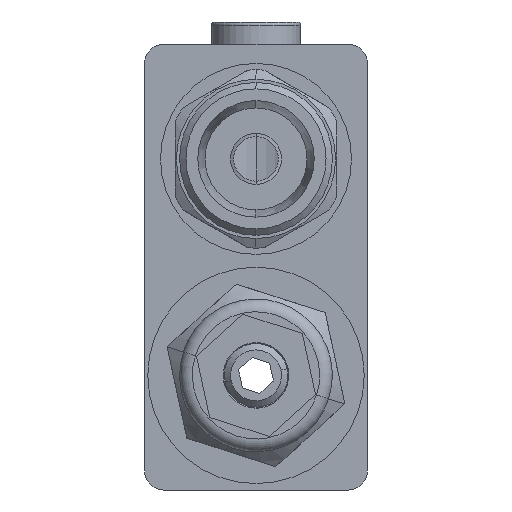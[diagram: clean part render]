
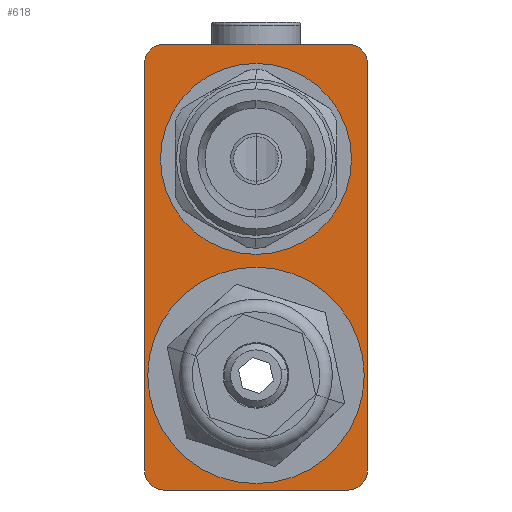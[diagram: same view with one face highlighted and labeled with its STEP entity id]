
A CAD part, left-side view. The second image highlights one B-rep face of the part: STEP entity #618.
In plain terms, the highlighted planar face has unit normal (-1, 0, 0).
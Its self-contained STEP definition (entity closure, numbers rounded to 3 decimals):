
#51 = VECTOR ( 'NONE', #2584, 1000. ) ;
#175 = ORIENTED_EDGE ( 'NONE', *, *, #5574, .T. ) ;
#204 = CIRCLE ( 'NONE', #5068, 3. ) ;
#242 = CARTESIAN_POINT ( 'NONE',  ( -58., 0., -34. ) ) ;
#286 = VECTOR ( 'NONE', #1292, 1000. ) ;
#329 = CARTESIAN_POINT ( 'NONE',  ( -58., -17.5, 35. ) ) ;
#426 = EDGE_CURVE ( 'NONE', #5053, #4060, #1322, .T. ) ;
#561 = LINE ( 'NONE', #4968, #4299 ) ;
#594 = CARTESIAN_POINT ( 'NONE',  ( -58., 17.5, 35. ) ) ;
#595 = EDGE_LOOP ( 'NONE', ( #7310, #4811, #2607, #3880, #2161, #4622, #5706, #1457 ) ) ;
#618 = ADVANCED_FACE ( 'NONE', ( #2884, #4698, #1850 ), #1781, .F. ) ;
#689 = EDGE_LOOP ( 'NONE', ( #3813, #175 ) ) ;
#717 = CARTESIAN_POINT ( 'NONE',  ( -58., 17.5, 32. ) ) ;
#779 = DIRECTION ( 'NONE',  ( -1., 0., 0. ) ) ;
#802 = CARTESIAN_POINT ( 'NONE',  ( -58., 0., 17. ) ) ;
#839 = VERTEX_POINT ( 'NONE', #1248 ) ;
#841 = CARTESIAN_POINT ( 'NONE',  ( -58., 0., -17. ) ) ;
#907 = VECTOR ( 'NONE', #3058, 1000. ) ;
#913 = VERTEX_POINT ( 'NONE', #242 ) ;
#932 = CARTESIAN_POINT ( 'NONE',  ( -58., -17.5, 32. ) ) ;
#1072 = DIRECTION ( 'NONE',  ( 0., 0., -1. ) ) ;
#1114 = DIRECTION ( 'NONE',  ( 0., -1., 0. ) ) ;
#1122 = CIRCLE ( 'NONE', #2063, 17. ) ;
#1147 = DIRECTION ( 'NONE',  ( 0., 0., -1. ) ) ;
#1248 = CARTESIAN_POINT ( 'NONE',  ( -58., 0., 32. ) ) ;
#1251 = DIRECTION ( 'NONE',  ( 1., 0., 0. ) ) ;
#1292 = DIRECTION ( 'NONE',  ( 0., 0., 1. ) ) ;
#1322 = CIRCLE ( 'NONE', #2031, 3. ) ;
#1364 = DIRECTION ( 'NONE',  ( 0., 0., -1. ) ) ;
#1376 = CARTESIAN_POINT ( 'NONE',  ( -58., 14.5, -35. ) ) ;
#1428 = CARTESIAN_POINT ( 'NONE',  ( -58., 17.5, 35. ) ) ;
#1457 = ORIENTED_EDGE ( 'NONE', *, *, #1569, .T. ) ;
#1569 = EDGE_CURVE ( 'NONE', #1655, #2103, #204, .T. ) ;
#1639 = CARTESIAN_POINT ( 'NONE',  ( -58., -17.5, -32. ) ) ;
#1655 = VERTEX_POINT ( 'NONE', #7309 ) ;
#1781 = PLANE ( 'NONE',  #6994 ) ;
#1850 = FACE_BOUND ( 'NONE', #3296, .T. ) ;
#1852 = AXIS2_PLACEMENT_3D ( 'NONE', #2180, #5032, #1072 ) ;
#2031 = AXIS2_PLACEMENT_3D ( 'NONE', #6446, #2554, #1364 ) ;
#2038 = CARTESIAN_POINT ( 'NONE',  ( -58., 14.5, 32. ) ) ;
#2063 = AXIS2_PLACEMENT_3D ( 'NONE', #6362, #6328, #1147 ) ;
#2103 = VERTEX_POINT ( 'NONE', #717 ) ;
#2161 = ORIENTED_EDGE ( 'NONE', *, *, #5380, .T. ) ;
#2180 = CARTESIAN_POINT ( 'NONE',  ( -58., -14.5, 32. ) ) ;
#2322 = AXIS2_PLACEMENT_3D ( 'NONE', #6816, #4454, #5080 ) ;
#2404 = LINE ( 'NONE', #594, #286 ) ;
#2554 = DIRECTION ( 'NONE',  ( -1., 0., 0. ) ) ;
#2584 = DIRECTION ( 'NONE',  ( 0., 0., 1. ) ) ;
#2607 = ORIENTED_EDGE ( 'NONE', *, *, #6511, .T. ) ;
#2659 = EDGE_CURVE ( 'NONE', #3185, #839, #4545, .T. ) ;
#2703 = CARTESIAN_POINT ( 'NONE',  ( -58., 0., 0. ) ) ;
#2856 = DIRECTION ( 'NONE',  ( 0., 0., -1. ) ) ;
#2884 = FACE_BOUND ( 'NONE', #689, .T. ) ;
#2974 = EDGE_CURVE ( 'NONE', #913, #6422, #1122, .T. ) ;
#3009 = EDGE_CURVE ( 'NONE', #6536, #2103, #2404, .T. ) ;
#3056 = DIRECTION ( 'NONE',  ( -1., 0., 0. ) ) ;
#3058 = DIRECTION ( 'NONE',  ( 0., -1., 0. ) ) ;
#3069 = DIRECTION ( 'NONE',  ( 0., 0., 1. ) ) ;
#3185 = VERTEX_POINT ( 'NONE', #6687 ) ;
#3236 = CIRCLE ( 'NONE', #6074, 17. ) ;
#3296 = EDGE_LOOP ( 'NONE', ( #5632, #3530 ) ) ;
#3530 = ORIENTED_EDGE ( 'NONE', *, *, #2659, .F. ) ;
#3813 = ORIENTED_EDGE ( 'NONE', *, *, #2974, .T. ) ;
#3831 = CIRCLE ( 'NONE', #4780, 15. ) ;
#3880 = ORIENTED_EDGE ( 'NONE', *, *, #426, .T. ) ;
#4023 = EDGE_CURVE ( 'NONE', #6536, #5880, #4452, .T. ) ;
#4060 = VERTEX_POINT ( 'NONE', #1639 ) ;
#4098 = DIRECTION ( 'NONE',  ( 0., 0., 1. ) ) ;
#4292 = DIRECTION ( 'NONE',  ( -1., 0., 0. ) ) ;
#4299 = VECTOR ( 'NONE', #1114, 1000. ) ;
#4424 = EDGE_CURVE ( 'NONE', #6293, #5143, #7054, .T. ) ;
#4452 = CIRCLE ( 'NONE', #2322, 3. ) ;
#4454 = DIRECTION ( 'NONE',  ( -1., 0., 0. ) ) ;
#4545 = CIRCLE ( 'NONE', #4900, 15. ) ;
#4622 = ORIENTED_EDGE ( 'NONE', *, *, #4424, .T. ) ;
#4645 = EDGE_CURVE ( 'NONE', #1655, #5143, #5325, .T. ) ;
#4698 = FACE_OUTER_BOUND ( 'NONE', #595, .T. ) ;
#4729 = DIRECTION ( 'NONE',  ( 0., 0., -1. ) ) ;
#4780 = AXIS2_PLACEMENT_3D ( 'NONE', #802, #3056, #4098 ) ;
#4811 = ORIENTED_EDGE ( 'NONE', *, *, #4023, .T. ) ;
#4900 = AXIS2_PLACEMENT_3D ( 'NONE', #7079, #779, #3069 ) ;
#4968 = CARTESIAN_POINT ( 'NONE',  ( -58., 17.5, -35. ) ) ;
#5032 = DIRECTION ( 'NONE',  ( -1., 0., 0. ) ) ;
#5053 = VERTEX_POINT ( 'NONE', #6039 ) ;
#5068 = AXIS2_PLACEMENT_3D ( 'NONE', #2038, #4292, #5368 ) ;
#5080 = DIRECTION ( 'NONE',  ( 0., 0., -1. ) ) ;
#5143 = VERTEX_POINT ( 'NONE', #7087 ) ;
#5146 = CARTESIAN_POINT ( 'NONE',  ( -58., 17.5, 35. ) ) ;
#5325 = LINE ( 'NONE', #1428, #907 ) ;
#5368 = DIRECTION ( 'NONE',  ( 0., 0., -1. ) ) ;
#5380 = EDGE_CURVE ( 'NONE', #4060, #6293, #5408, .T. ) ;
#5408 = LINE ( 'NONE', #329, #51 ) ;
#5574 = EDGE_CURVE ( 'NONE', #6422, #913, #3236, .T. ) ;
#5609 = EDGE_CURVE ( 'NONE', #839, #3185, #3831, .T. ) ;
#5632 = ORIENTED_EDGE ( 'NONE', *, *, #5609, .F. ) ;
#5706 = ORIENTED_EDGE ( 'NONE', *, *, #4645, .F. ) ;
#5880 = VERTEX_POINT ( 'NONE', #1376 ) ;
#6039 = CARTESIAN_POINT ( 'NONE',  ( -58., -14.5, -35. ) ) ;
#6074 = AXIS2_PLACEMENT_3D ( 'NONE', #841, #1251, #4729 ) ;
#6293 = VERTEX_POINT ( 'NONE', #932 ) ;
#6328 = DIRECTION ( 'NONE',  ( 1., 0., 0. ) ) ;
#6330 = DIRECTION ( 'NONE',  ( 1., 0., 0. ) ) ;
#6362 = CARTESIAN_POINT ( 'NONE',  ( -58., 0., -17. ) ) ;
#6422 = VERTEX_POINT ( 'NONE', #2703 ) ;
#6446 = CARTESIAN_POINT ( 'NONE',  ( -58., -14.5, -32. ) ) ;
#6511 = EDGE_CURVE ( 'NONE', #5880, #5053, #561, .T. ) ;
#6536 = VERTEX_POINT ( 'NONE', #6747 ) ;
#6687 = CARTESIAN_POINT ( 'NONE',  ( -58., 0., 2. ) ) ;
#6747 = CARTESIAN_POINT ( 'NONE',  ( -58., 17.5, -32. ) ) ;
#6816 = CARTESIAN_POINT ( 'NONE',  ( -58., 14.5, -32. ) ) ;
#6994 = AXIS2_PLACEMENT_3D ( 'NONE', #5146, #6330, #2856 ) ;
#7054 = CIRCLE ( 'NONE', #1852, 3. ) ;
#7079 = CARTESIAN_POINT ( 'NONE',  ( -58., 0., 17. ) ) ;
#7087 = CARTESIAN_POINT ( 'NONE',  ( -58., -14.5, 35. ) ) ;
#7309 = CARTESIAN_POINT ( 'NONE',  ( -58., 14.5, 35. ) ) ;
#7310 = ORIENTED_EDGE ( 'NONE', *, *, #3009, .F. ) ;
